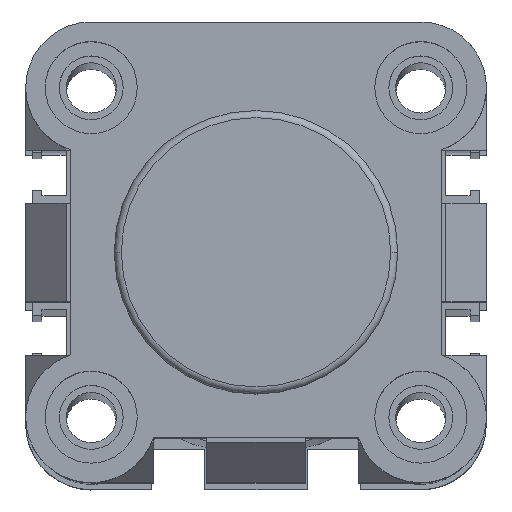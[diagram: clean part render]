
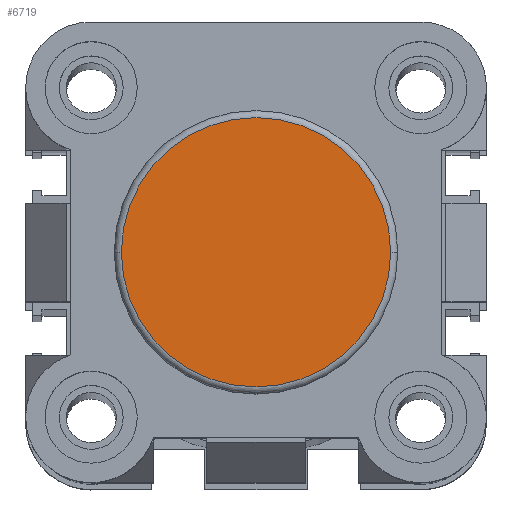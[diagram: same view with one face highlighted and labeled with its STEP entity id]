
A CAD part, top view. The second image highlights one B-rep face of the part: STEP entity #6719.
In plain terms, the highlighted planar face has unit normal (0, 0, 1).
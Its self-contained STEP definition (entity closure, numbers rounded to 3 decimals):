
#1130 = DIRECTION ( 'NONE',  ( 0., 0., 1. ) ) ;
#2182 = DIRECTION ( 'NONE',  ( 0., 0., 1. ) ) ;
#3535 = DIRECTION ( 'NONE',  ( 1., 0., 0. ) ) ;
#3906 = CIRCLE ( 'NONE', #5814, 19. ) ;
#4510 = EDGE_CURVE ( 'NONE', #17348, #19868, #3906, .T. ) ;
#5814 = AXIS2_PLACEMENT_3D ( 'NONE', #13601, #2182, #8689 ) ;
#6090 = EDGE_CURVE ( 'NONE', #19868, #17348, #24112, .T. ) ;
#6588 = FACE_OUTER_BOUND ( 'NONE', #24405, .T. ) ;
#6719 = ADVANCED_FACE ( 'NONE', ( #6588 ), #9349, .T. ) ;
#7066 = DIRECTION ( 'NONE',  ( 1., 0., 0. ) ) ;
#8689 = DIRECTION ( 'NONE',  ( 1., 0., 0. ) ) ;
#9349 = PLANE ( 'NONE',  #21615 ) ;
#10229 = AXIS2_PLACEMENT_3D ( 'NONE', #14537, #1130, #7066 ) ;
#11106 = DIRECTION ( 'NONE',  ( 0., 0., 1. ) ) ;
#13601 = CARTESIAN_POINT ( 'NONE',  ( 32.5, 32.5, 34. ) ) ;
#14537 = CARTESIAN_POINT ( 'NONE',  ( 32.5, 32.5, 34. ) ) ;
#14792 = CARTESIAN_POINT ( 'NONE',  ( 32.5, 32.5, 34. ) ) ;
#17348 = VERTEX_POINT ( 'NONE', #19390 ) ;
#19390 = CARTESIAN_POINT ( 'NONE',  ( 13.5, 32.5, 34. ) ) ;
#19868 = VERTEX_POINT ( 'NONE', #23431 ) ;
#21615 = AXIS2_PLACEMENT_3D ( 'NONE', #14792, #11106, #3535 ) ;
#21734 = ORIENTED_EDGE ( 'NONE', *, *, #4510, .T. ) ;
#23431 = CARTESIAN_POINT ( 'NONE',  ( 51.5, 32.5, 34. ) ) ;
#24112 = CIRCLE ( 'NONE', #10229, 19. ) ;
#24401 = ORIENTED_EDGE ( 'NONE', *, *, #6090, .T. ) ;
#24405 = EDGE_LOOP ( 'NONE', ( #24401, #21734 ) ) ;
